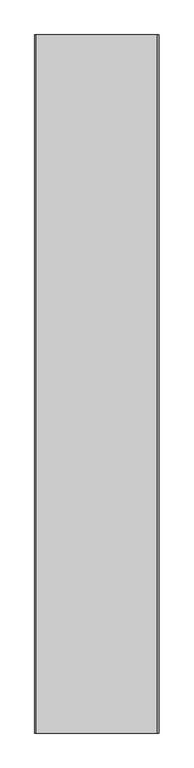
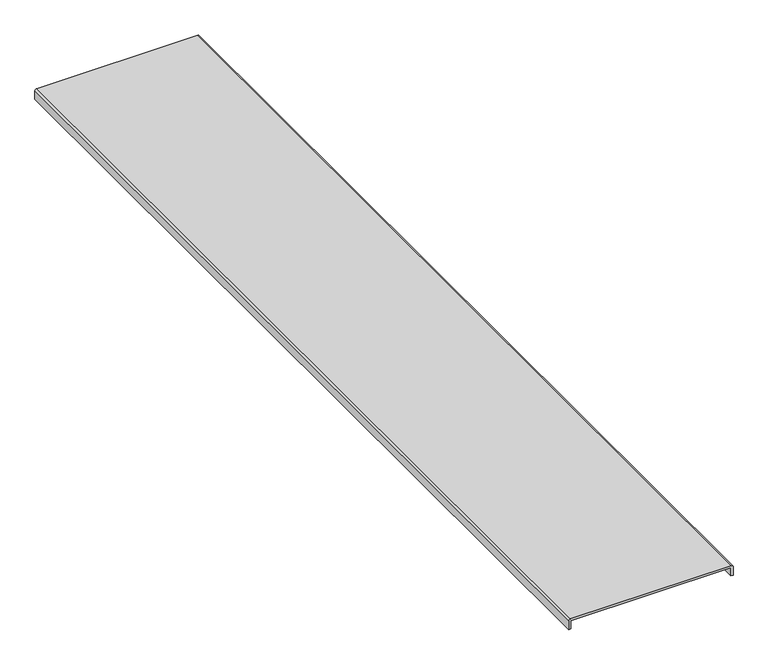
"""IFC4 building model written with IfcOpenShell, lengths in millimetres: proxy geometry, Cable_Tray_Cover_TWT_Basorcanal : Basorcanal TWT 300."""

import ifcopenshell
import ifcopenshell.guid

model = None  # the IFC model being written
_history = None  # IfcOwnerHistory: only IFC2X3 demands one
_inside = {}  # id of a spatial element -> (the spatial element, [elements in it])
_under = {}  # id of a project, library or spatial element -> (it, [spatial elements below it])
_declared = {}  # id of a project -> (the project, [libraries it declares])
_typed = {}  # id of a type object -> (the type object, [elements of that type])
_made_of = {}  # id of a material, layer set ... -> (it, [elements and type objects made of it])


def new_model(schema):
    """Start an empty IFC model of exactly this schema.

    Asked for "IFC4X3", IfcOpenShell would pick the latest addendum, in which some entities
    have other attributes; the version numbers below select the first issue.
    IFC2X3 requires an IfcOwnerHistory on every rooted entity: one is made here for all.
    """
    global model, _history
    if schema == "IFC4X3":
        model = ifcopenshell.file(schema_version=(4, 3, 0, 0))
    else:
        model = ifcopenshell.file(schema=schema)
    _inside.clear()
    _under.clear()
    _declared.clear()
    _typed.clear()
    _made_of.clear()
    _history = None
    if model.schema == "IFC2X3":
        org = make("IfcOrganization", Name="unknown")
        user = make(
            "IfcPersonAndOrganization",
            ThePerson=make("IfcPerson", FamilyName="unknown"),
            TheOrganization=org,
        )
        app = make(
            "IfcApplication",
            ApplicationDeveloper=org,
            Version="unknown",
            ApplicationFullName="unknown",
            ApplicationIdentifier="unknown",
        )
        _history = make(
            "IfcOwnerHistory",
            OwningUser=user,
            OwningApplication=app,
            ChangeAction="ADDED",
            CreationDate=0,
        )
    return model


def make(cls, **values):
    """One entity of the class cls with the attributes given. An attribute that is None is left unset."""
    return model.create_entity(
        cls, **{name: value for name, value in values.items() if value is not None}
    )


def rooted(cls, **values):
    """An entity with a GlobalId (a new one), such as an element, a storey or a relation."""
    return make(cls, GlobalId=ifcopenshell.guid.new(), OwnerHistory=_history, **values)


def si_unit(unit_type, name, prefix=None):
    """IfcSIUnit, for example si_unit("LENGTHUNIT", "METRE", prefix="MILLI")."""
    return make("IfcSIUnit", UnitType=unit_type, Prefix=prefix, Name=name)


def assignment(units):
    """IfcUnitAssignment: the units of a project."""
    return None if units is None else make("IfcUnitAssignment", Units=units)


def point(xyz):
    """IfcCartesianPoint."""
    return None if xyz is None else make("IfcCartesianPoint", Coordinates=xyz)


def direction(xyz):
    """IfcDirection."""
    return None if xyz is None else make("IfcDirection", DirectionRatios=xyz)


def frame(location, z_axis=None, x_axis=None):
    """IfcAxis2Placement3D, a coordinate frame: its origin and axes. An axis left out is left unset."""
    return make(
        "IfcAxis2Placement3D",
        Location=point(location),
        Axis=direction(z_axis),
        RefDirection=direction(x_axis),
    )


def frame_2d(location, x_axis=None):
    """IfcAxis2Placement2D, a coordinate frame in the plane: its origin and x axis."""
    return make(
        "IfcAxis2Placement2D", Location=point(location), RefDirection=direction(x_axis)
    )


def origin():
    """The frame at (0, 0, 0) with its axes left unset."""
    return frame((0.0, 0.0, 0.0))


def place(relative_to, where):
    """IfcLocalPlacement: puts the frame where relative to a parent placement (None: the world)."""
    return make(
        "IfcLocalPlacement", PlacementRelTo=relative_to, RelativePlacement=where
    )


def context(
    kind, dimensions, precision=None, world=None, true_north=None, identifier=None
):
    """IfcGeometricRepresentationContext, for example the 3D "Model" context."""
    return make(
        "IfcGeometricRepresentationContext",
        ContextIdentifier=identifier,
        ContextType=kind,
        CoordinateSpaceDimension=dimensions,
        Precision=precision,
        WorldCoordinateSystem=world,
        TrueNorth=true_north,
    )


def project(units=None, contexts=None):
    """IfcProject with its units and contexts."""
    return rooted(
        "IfcProject",
        Name="project",
        RepresentationContexts=contexts,
        UnitsInContext=assignment(units),
    )


def spatial(cls, under=None, at=None, **own):
    """A site, building, storey or space (cls), placed at a placement, below another one or the project."""
    s = rooted(cls, ObjectPlacement=at, **own)
    if under is not None:
        _under.setdefault(under.id(), (under, []))[1].append(s)
    return s


def polyline(points):
    """IfcPolyline through the points."""
    return make("IfcPolyline", Points=[point(p) for p in points])


def circle_curve(where, radius):
    """IfcCircle in the frame where."""
    return make("IfcCircle", Position=where, Radius=radius)


def trimmed(basis, trim1, trim2, sense, master):
    """IfcTrimmedCurve: the piece of a basis curve between two trims."""
    return make(
        "IfcTrimmedCurve",
        BasisCurve=basis,
        Trim1=trim1,
        Trim2=trim2,
        SenseAgreement=sense,
        MasterRepresentation=master,
    )


def segment(curve, same_sense, transition):
    """IfcCompositeCurveSegment."""
    return make(
        "IfcCompositeCurveSegment",
        Transition=transition,
        SameSense=same_sense,
        ParentCurve=curve,
    )


def composite_curve(segments, self_intersect=None):
    """IfcCompositeCurve: segments joined end to end."""
    return make("IfcCompositeCurve", Segments=segments, SelfIntersect=self_intersect)


def outline(outer, holes=None, kind="AREA"):
    """IfcArbitraryClosedProfileDef: a profile drawn as a closed curve; with holes, ...WithVoids."""
    if holes is None:
        return make("IfcArbitraryClosedProfileDef", ProfileType=kind, OuterCurve=outer)
    return make(
        "IfcArbitraryProfileDefWithVoids",
        ProfileType=kind,
        OuterCurve=outer,
        InnerCurves=holes,
    )


def extrude(swept, where, along, depth):
    """IfcExtrudedAreaSolid: the profile swept, set in the frame where, extruded along a direction by depth."""
    return make(
        "IfcExtrudedAreaSolid",
        SweptArea=swept,
        Position=where,
        ExtrudedDirection=direction(along),
        Depth=depth,
    )


def shape(context_of_items, identifier, shape_type, items):
    """IfcShapeRepresentation: the items that make up one representation, for example the "Body"."""
    return make(
        "IfcShapeRepresentation",
        ContextOfItems=context_of_items,
        RepresentationIdentifier=identifier,
        RepresentationType=shape_type,
        Items=items,
    )


def source(mapping_origin, context_of_items, identifier, shape_type, items):
    """IfcRepresentationMap: a shape defined once, which mapped items show again and again."""
    return make(
        "IfcRepresentationMap",
        MappingOrigin=mapping_origin,
        MappedRepresentation=shape(context_of_items, identifier, shape_type, items),
    )


def transform(
    local_origin,
    x_axis=None,
    y_axis=None,
    z_axis=None,
    scale=None,
    scale2=None,
    scale3=None,
    uniform=True,
):
    """IfcCartesianTransformationOperator3D, or its non-uniform kind. x_axis, y_axis, z_axis: its Axis1, 2, 3."""
    if uniform:
        return make(
            "IfcCartesianTransformationOperator3D",
            Axis1=direction(x_axis),
            Axis2=direction(y_axis),
            LocalOrigin=point(local_origin),
            Scale=scale,
            Axis3=direction(z_axis),
        )
    return make(
        "IfcCartesianTransformationOperator3DnonUniform",
        Axis1=direction(x_axis),
        Axis2=direction(y_axis),
        LocalOrigin=point(local_origin),
        Scale=scale,
        Axis3=direction(z_axis),
        Scale2=scale2,
        Scale3=scale3,
    )


def mapped(mapping_source, mapping_target):
    """IfcMappedItem: shows the shape of a source again, moved by a transform."""
    return make(
        "IfcMappedItem", MappingSource=mapping_source, MappingTarget=mapping_target
    )


def made_of(thing, what):
    """Note that an element or type object is made of a material, layer set ...; save() writes the relation."""
    if what is not None:
        _made_of.setdefault(what.id(), (what, []))[1].append(thing)
    return thing


def element(
    cls,
    number,
    at=None,
    inside=None,
    cuts=None,
    type_object=None,
    material=None,
    context=None,
    identifier="Body",
    shape_type=None,
    held_by="IfcProductDefinitionShape",
    body=None,
    shapes=None,
    **own,
):
    """One element of the class cls, such as IfcWall. Its Tag is "e" and its number.

    at: its placement. inside: the storey or other place that contains it. cuts: it is an
    opening in that element (IfcRelVoidsElement). A single representation is given by context,
    identifier, shape_type and body (its items); several are given by shapes. held_by: the class
    of the entity that holds the representations. save() writes the other relations.
    """
    e = rooted(cls, Tag="e%d" % number, ObjectPlacement=at, **own)
    if body is not None:
        shapes = [shape(context, identifier, shape_type, body)]
    if shapes is not None:
        e.Representation = make(held_by, Representations=shapes)
    if inside is not None:
        _inside.setdefault(inside.id(), (inside, []))[1].append(e)
    if cuts is not None:
        rooted(
            "IfcRelVoidsElement", RelatingBuildingElement=cuts, RelatedOpeningElement=e
        )
    if type_object is not None:
        _typed.setdefault(type_object.id(), (type_object, []))[1].append(e)
    return made_of(e, material)


def aggregate(whole, parts):
    """IfcRelAggregates: a whole, such as a stair, and the parts it consists of."""
    return rooted("IfcRelAggregates", RelatingObject=whole, RelatedObjects=parts)


def save(model, path):
    """Write the relations noted so far, then the file.

    IfcRelAggregates (storeys below a building ...), IfcRelContainedInSpatialStructure (elements
    in a storey), IfcRelDefinesByType, IfcRelAssociatesMaterial and IfcRelDeclares: one each for
    every whole, place, type object, material and project.
    """
    for whole, parts in _under.values():
        aggregate(whole, parts)
    for where, things in _inside.values():
        rooted(
            "IfcRelContainedInSpatialStructure",
            RelatedElements=things,
            RelatingStructure=where,
        )
    for kind, things in _typed.values():
        rooted("IfcRelDefinesByType", RelatedObjects=things, RelatingType=kind)
    for what, things in _made_of.values():
        rooted("IfcRelAssociatesMaterial", RelatedObjects=things, RelatingMaterial=what)
    for by, libraries in _declared.values():
        rooted("IfcRelDeclares", RelatingContext=by, RelatedDefinitions=libraries)
    model.write(path)


def generic_models_0fb2b5c2(model_context):
    return source(origin(), model_context, "Body", "SweptSolid", [
        extrude(outline(composite_curve([segment(trimmed(circle_curve(frame_2d((-0.5, -149.5)), 0.5), [point((-0.5, -150.0))], [point((0.0, -149.5))], True, "CARTESIAN"), True, "CONTINUOUS"), segment(polyline([(0.0, -149.5), (0.0, 149.5)]), True, "CONTINUOUS"), segment(trimmed(circle_curve(frame_2d((-0.5, 149.5)), 0.5), [point((0.0, 149.5))], [point((-0.5, 150.0))], True, "CARTESIAN"), True, "CONTINUOUS"), segment(polyline([(-0.5, 150.0), (-16.0, 150.0), (-16.0, 154.0), (0.9268922, 154.0)]), True, "CONTINUOUS"), segment(trimmed(circle_curve(frame_2d((0.9268922, 150.9268922)), 3.0731078), [point((0.9268922, 154.0))], [point((4.0, 150.9268922))], False, "CARTESIAN"), True, "CONTINUOUS"), segment(polyline([(4.0, 150.9268922), (4.0, -150.6770801)]), True, "CONTINUOUS"), segment(trimmed(circle_curve(frame_2d((0.6770801, -150.6770801)), 3.3229199), [point((4.0, -150.6770801))], [point((0.6770801, -154.0))], False, "CARTESIAN"), True, "CONTINUOUS"), segment(polyline([(0.6770801, -154.0), (-16.0, -154.0), (-16.0, -150.0), (-0.5, -150.0)]), True, "CONTINUOUS")], self_intersect=False)), frame((0.0, 0.0, 0.0), z_axis=(0.0, 1.0, 0.0), x_axis=(0.0, 0.0, 1.0)), (0.0, 0.0, 1.0), 1730.5),
    ])


if __name__ == "__main__":
    model = new_model("IFC4")
    model_context = context("Model", 3, world=origin())
    ifc_project = project(units=[si_unit("LENGTHUNIT", "METRE", prefix="MILLI")], contexts=[model_context])
    site = spatial("IfcSite", under=ifc_project)
    building = spatial("IfcBuilding", under=site)
    placement = place(None, origin())
    generic_models_shape = generic_models_0fb2b5c2(model_context)
    element("IfcBuildingElementProxy", 1, Name="Cable_Tray_Cover_TWT_Basorcanal : Basorcanal TWT 300", ObjectType="Cable_Tray_Cover_TWT_Basorcanal : Basorcanal TWT 300", at=placement, inside=building, context=model_context, shape_type="MappedRepresentation", body=[
        mapped(generic_models_shape, transform((0.0, 0.0, 0.0), x_axis=(1.0, 0.0, 0.0), y_axis=(0.0, 1.0, 0.0), z_axis=(0.0, 0.0, 1.0))),
    ])
    save(model, "model.ifc")
